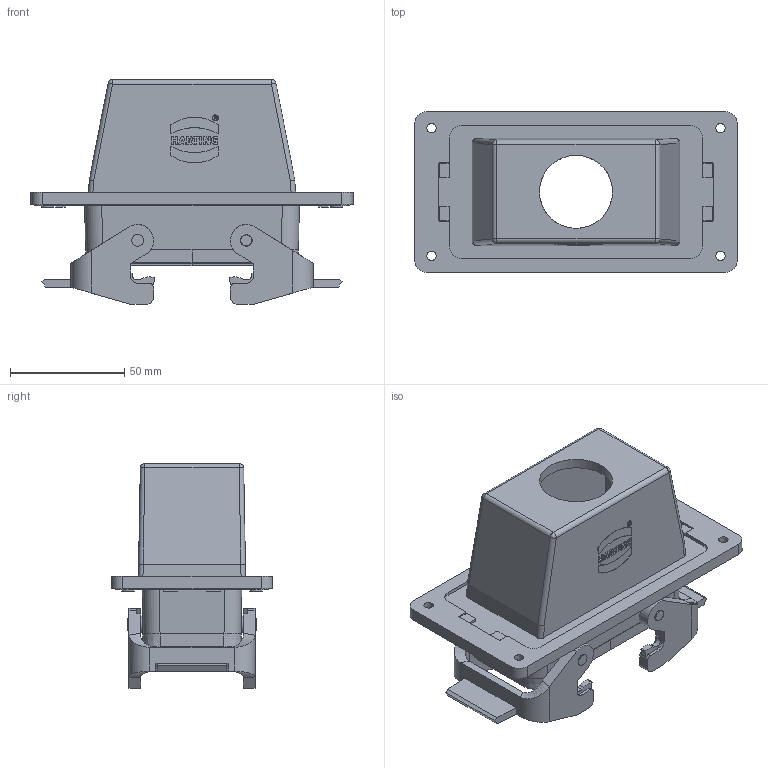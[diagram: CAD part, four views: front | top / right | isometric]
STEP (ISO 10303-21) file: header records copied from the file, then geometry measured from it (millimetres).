
FILE_DESCRIPTION(/* description */ (''),/* implementation_level */ '2;1');
FILE_NAME(/* name */ '100801667ugm000_c.stp',/* time_stamp */ '2022-03-12T08:37:22+01:00',/* author */ (''),/* organization */ (''),/* preprocessor_version */ 'ST-DEVELOPER v16.7',/* originating_system */ 'SIEMENS PLM Software NX 1911',/* authorisation */ '');
FILE_SCHEMA (('AUTOMOTIVE_DESIGN { 1 0 10303 214 3 1 1 1 }'));
Length unit declared in the file: millimetre
Products named in the file (1): 100801667ugm000_c
Bounding box: 141 x 70.5 x 98.4 mm (x, y, z)
Volume: 158422 mm3; surface area: 72388.1 mm2
Topology: 3 solids, 3 shells, 643 faces, 1728 edges, 1133 vertices
Faces by surface type: plane 404, cylinder 188, bspline 28, cone 17, sphere 4, extrusion 2
Full cylindrical faces by diameter (mm): 2.277 x1, 2.692 x1, 3 x4, 4.1 x4, 4.8 x2, 5.13 x6, 7 x4, 32 x1
Entity records: 23766 total; most frequent: CARTESIAN_POINT 5216, ORIENTED_EDGE 3332, DIRECTION 3231, EDGE_CURVE 1666, VECTOR 1193, LINE 1191, VERTEX_POINT 1113, AXIS2_PLACEMENT_3D 1019
